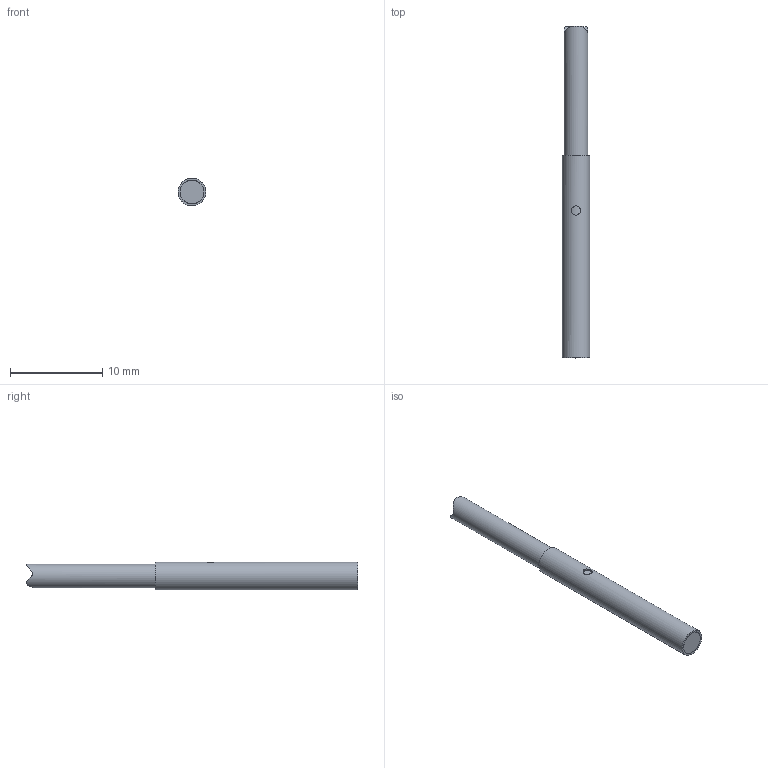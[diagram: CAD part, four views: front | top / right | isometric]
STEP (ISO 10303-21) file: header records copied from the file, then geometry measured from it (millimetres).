
FILE_DESCRIPTION(/* description */ (''),/* implementation_level */ '2;1');
FILE_NAME(/* name */ '3DCAD_IS_203MP_4NO_1E5.stp',/* time_stamp */ '2017-10-18T14:49:46+02:00',/* author */ ('CC2'),/* organization */ ('Leuze electronic'),/* preprocessor_version */ 'ST-DEVELOPER v15',/* originating_system */ 'SIEMENS PLM Software NX 8.5',/* authorisation */ '');
FILE_SCHEMA (('AUTOMOTIVE_DESIGN { 1 0 10303 214 3 1 1 1 }'));
Length unit declared in the file: millimetre
Products named in the file (1): 19-102741_00.0
Bounding box: 3 x 36.03 x 3 mm (x, y, z)
Volume: 227.5 mm3; surface area: 337.9 mm2
Topology: 1 solids, 1 shells, 11 faces, 26 edges, 20 vertices
Faces by surface type: cylinder 5, plane 3, cone 1, torus 1, extrusion 1
Full cylindrical faces by diameter (mm): 1 x1, 2.6 x2, 3 x1
Entity records: 530 total; most frequent: CARTESIAN_POINT 284, ORIENTED_EDGE 34, DIRECTION 31, EDGE_LOOP 20, FACE_BOUND 17, VERTEX_POINT 17, EDGE_CURVE 17, AXIS2_PLACEMENT_3D 15
